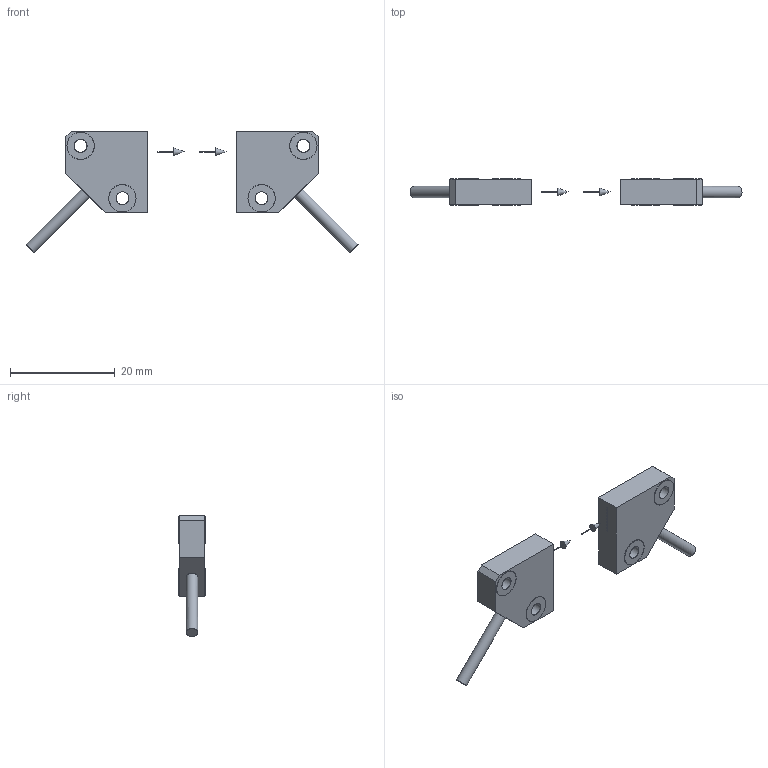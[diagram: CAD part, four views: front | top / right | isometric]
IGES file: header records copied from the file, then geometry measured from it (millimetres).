
Start section: C
Global section: file name: EE11066.igs; native system:  By UGS Corp.; preprocessor: XPlus GENERIC/IGES 3.0; author: Author; organization: Title; date: 20150506.131812; units: millimetre
Bounding box: 63.47 x 5 x 23.23 mm (x, y, z)
Surface area: 1763.6 mm2 (no closed solid volume)
Topology: 0 solids, 0 shells, 112 faces, 566 edges, 564 vertices
Faces by surface type: bspline 112
